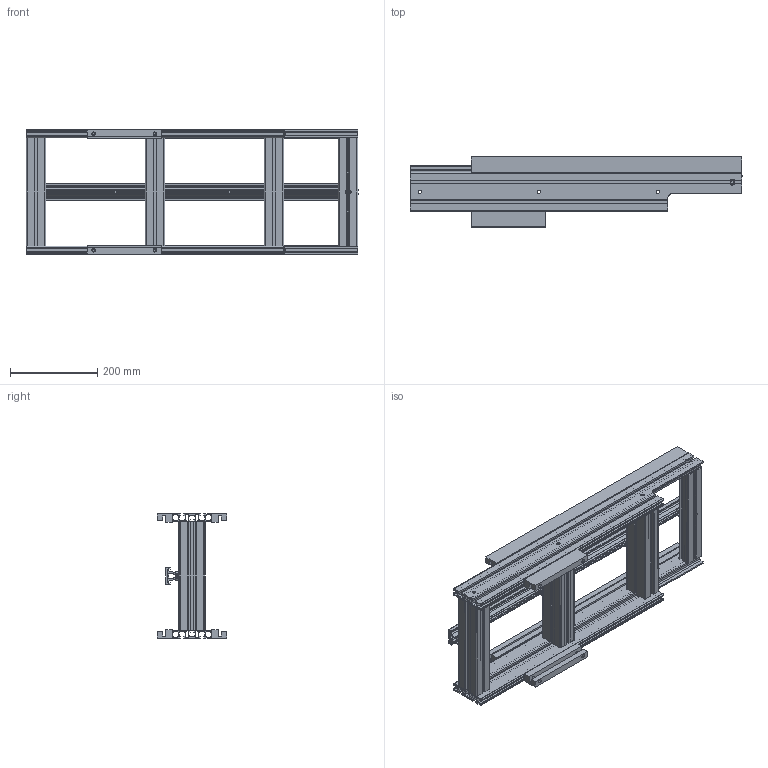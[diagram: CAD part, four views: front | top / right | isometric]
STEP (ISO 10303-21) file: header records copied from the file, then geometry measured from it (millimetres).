
FILE_DESCRIPTION (( 'STEP AP203' ), '1' );
FILE_NAME ('3000.250.101.STEP', '2018-02-28T10:53:16', ( 'Localadmin' ), ( 'Microsoft' ), 'SwSTEP 2.0', 'SolidWorks 2016', '' );
FILE_SCHEMA (( 'CONFIG_CONTROL_DESIGN' ));
Length unit declared in the file: millimetre
Products named in the file (1): 3000.250.101
Bounding box: 760 x 160 x 285 mm (x, y, z)
Volume: 3202943.4 mm3; surface area: 2004897.6 mm2
Topology: 17 solids, 17 shells, 1007 faces, 2897 edges, 1930 vertices
Faces by surface type: plane 614, cylinder 383, cone 10
Entity records: 33798 total; most frequent: CARTESIAN_POINT 6342, ORIENTED_EDGE 5794, DIRECTION 5645, EDGE_CURVE 2897, VECTOR 2075, LINE 2075, VERTEX_POINT 1930, AXIS2_PLACEMENT_3D 1785
